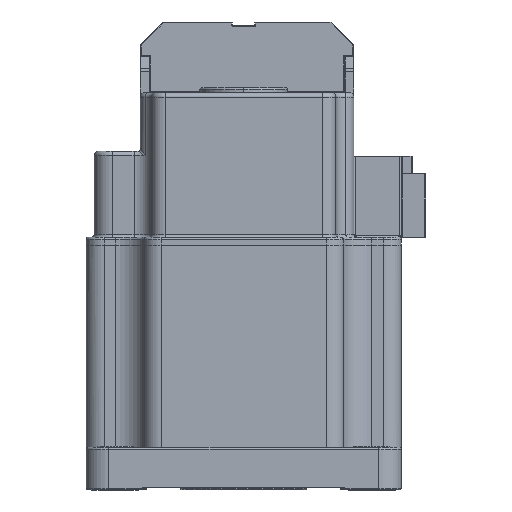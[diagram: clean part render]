
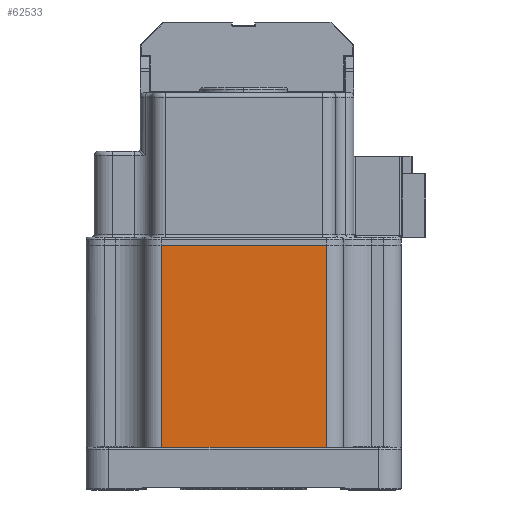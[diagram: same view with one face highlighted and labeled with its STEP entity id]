
A CAD part, left-side view. The second image highlights one B-rep face of the part: STEP entity #62533.
In plain terms, the highlighted planar face has unit normal (-1, 0, 0).
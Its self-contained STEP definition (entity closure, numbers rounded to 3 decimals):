
#3977 = EDGE_CURVE ( 'NONE', #97489, #58721, #126375, .T. ) ;
#4754 = CARTESIAN_POINT ( 'NONE',  ( 33.653, 25.854, 138.183 ) ) ;
#7588 = ORIENTED_EDGE ( 'NONE', *, *, #62504, .T. ) ;
#13576 = EDGE_CURVE ( 'NONE', #34841, #58721, #17233, .T. ) ;
#15846 = DIRECTION ( 'NONE',  ( 0., 1., 0. ) ) ;
#17233 = LINE ( 'NONE', #19664, #150315 ) ;
#18578 = DIRECTION ( 'NONE',  ( 0., 0., 1. ) ) ;
#19581 = VECTOR ( 'NONE', #15846, 1000. ) ;
#19664 = CARTESIAN_POINT ( 'NONE',  ( 33.653, 25.854, 138.183 ) ) ;
#25406 = EDGE_CURVE ( 'NONE', #34841, #137302, #96903, .T. ) ;
#27362 = CARTESIAN_POINT ( 'NONE',  ( 33.653, 62.525, 138.183 ) ) ;
#27655 = CARTESIAN_POINT ( 'NONE',  ( 33.653, 65.94, 138.183 ) ) ;
#28473 = EDGE_LOOP ( 'NONE', ( #48219, #7588, #150093, #109244 ) ) ;
#34841 = VERTEX_POINT ( 'NONE', #94628 ) ;
#48219 = ORIENTED_EDGE ( 'NONE', *, *, #3977, .F. ) ;
#52465 = CARTESIAN_POINT ( 'NONE',  ( 33.653, 44.19, 93.283 ) ) ;
#54985 = PLANE ( 'NONE',  #149874 ) ;
#58721 = VERTEX_POINT ( 'NONE', #4754 ) ;
#62504 = EDGE_CURVE ( 'NONE', #97489, #137302, #147237, .T. ) ;
#62533 = ADVANCED_FACE ( 'NONE', ( #75607 ), #54985, .F. ) ;
#75607 = FACE_OUTER_BOUND ( 'NONE', #28473, .T. ) ;
#94628 = CARTESIAN_POINT ( 'NONE',  ( 33.653, 25.854, 93.283 ) ) ;
#96903 = LINE ( 'NONE', #52465, #19581 ) ;
#97489 = VERTEX_POINT ( 'NONE', #131116 ) ;
#103426 = VECTOR ( 'NONE', #143238, 1000. ) ;
#104385 = DIRECTION ( 'NONE',  ( 0., 0., 1. ) ) ;
#109244 = ORIENTED_EDGE ( 'NONE', *, *, #13576, .T. ) ;
#110461 = VECTOR ( 'NONE', #155780, 1000. ) ;
#126375 = LINE ( 'NONE', #27655, #110461 ) ;
#129375 = CARTESIAN_POINT ( 'NONE',  ( 33.653, 65.94, 138.183 ) ) ;
#131116 = CARTESIAN_POINT ( 'NONE',  ( 33.653, 62.525, 138.183 ) ) ;
#137302 = VERTEX_POINT ( 'NONE', #160494 ) ;
#142154 = DIRECTION ( 'NONE',  ( 1., 0., 0. ) ) ;
#143238 = DIRECTION ( 'NONE',  ( 0., 0., -1. ) ) ;
#147237 = LINE ( 'NONE', #27362, #103426 ) ;
#149874 = AXIS2_PLACEMENT_3D ( 'NONE', #129375, #142154, #104385 ) ;
#150093 = ORIENTED_EDGE ( 'NONE', *, *, #25406, .F. ) ;
#150315 = VECTOR ( 'NONE', #18578, 1000. ) ;
#155780 = DIRECTION ( 'NONE',  ( 0., -1., 0. ) ) ;
#160494 = CARTESIAN_POINT ( 'NONE',  ( 33.653, 62.525, 93.283 ) ) ;
